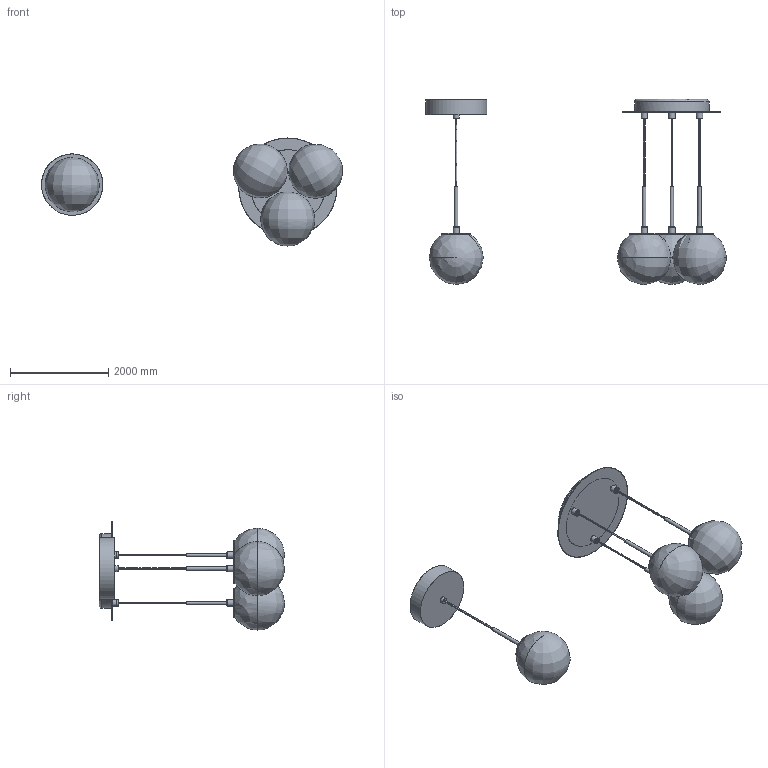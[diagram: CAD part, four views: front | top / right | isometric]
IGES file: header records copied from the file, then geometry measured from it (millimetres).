
Start section:  Alias AutoStudio for Windows version 11.0.2 IGES version 5.3
Global section: file name: C:\Users\Stage1.KUNDALINI\Desktop\Modelli fake\DEWeDEW3.igs; native system: Rhinoceros ( Jan 18 2007 ); preprocessor: Trout Lake IGES 012 Jan 18 2007; date: 141016.114148; units: centimetre
Bounding box: 6127.31 x 3770.77 x 2200 mm (x, y, z)
Surface area: 43855598.9 mm2 (no closed solid volume)
Topology: 0 solids, 0 shells, 156 faces, 1062 edges, 974 vertices
Faces by surface type: bspline 156
